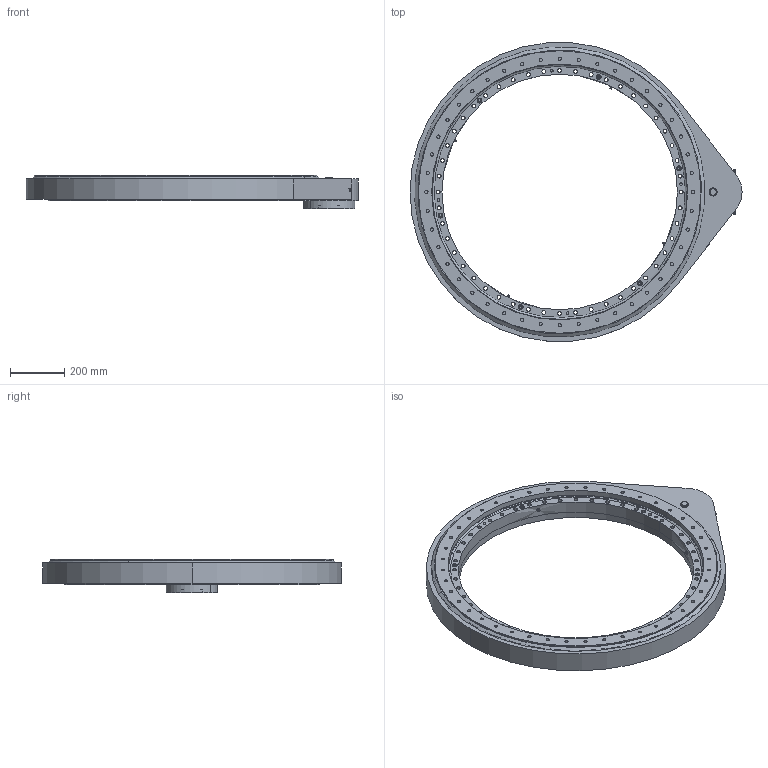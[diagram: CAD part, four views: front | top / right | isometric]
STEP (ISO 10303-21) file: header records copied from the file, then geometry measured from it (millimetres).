
FILE_DESCRIPTION (( 'STEP AP214' ), '1' );
FILE_NAME ('20941.STEP', '2023-03-18T04:25:26', ( '' ), ( '' ), 'SwSTEP 2.0', 'SolidWorks 2021', '' );
FILE_SCHEMA (( 'AUTOMOTIVE_DESIGN' ));
Length unit declared in the file: millimetre
Products named in the file (1): 20941
Bounding box: 1226.5 x 1102.39 x 125 mm (x, y, z)
Surface area: 1893662.5 mm2 (no closed solid volume)
Topology: 0 solids, 52 shells, 591 faces, 1996 edges, 1420 vertices
Faces by surface type: cylinder 354, plane 134, torus 57, cone 32, sphere 14
Entity records: 29702 total; most frequent: CARTESIAN_POINT 5016, DIRECTION 4144, ORIENTED_EDGE 3205, EDGE_CURVE 1948, AXIS2_PLACEMENT_3D 1720, VERTEX_POINT 1392, CIRCLE 1128, EDGE_LOOP 932
